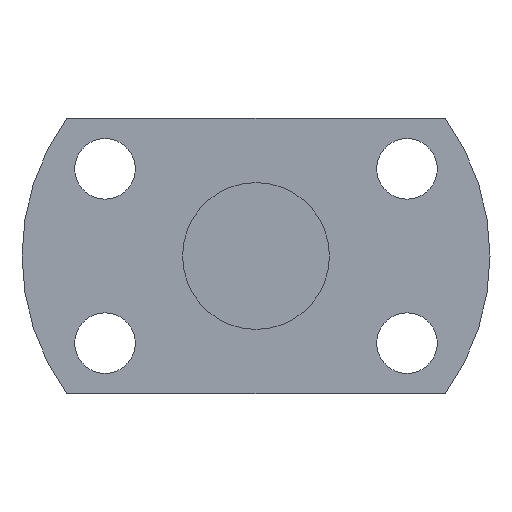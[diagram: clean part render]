
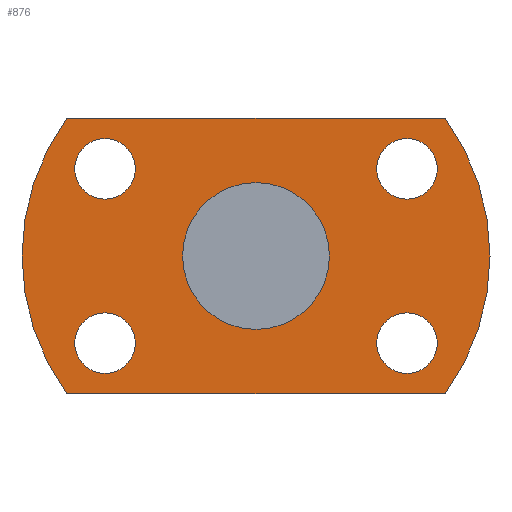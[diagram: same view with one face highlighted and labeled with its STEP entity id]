
A CAD part, left-side view. The second image highlights one B-rep face of the part: STEP entity #876.
In plain terms, the highlighted planar face has unit normal (-1, 0, 0).
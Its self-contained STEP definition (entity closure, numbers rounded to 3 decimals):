
#230=CARTESIAN_POINT('',(130.0,16.454,-6.2));
#231=VERTEX_POINT('',#230);
#232=CARTESIAN_POINT('',(130.0,16.454,-9.5));
#233=DIRECTION('',(1.0,0.0,0.0));
#234=DIRECTION('',(0.0,0.0,1.0));
#235=AXIS2_PLACEMENT_3D('',#232,#233,#234);
#236=CIRCLE('',#235,3.3);
#237=EDGE_CURVE('',#231,#231,#236,.T.);
#279=CARTESIAN_POINT('',(130.0,-16.454,12.8));
#280=VERTEX_POINT('',#279);
#281=CARTESIAN_POINT('',(130.0,-16.454,9.5));
#282=DIRECTION('',(1.0,0.0,0.0));
#283=DIRECTION('',(0.0,0.0,1.0));
#284=AXIS2_PLACEMENT_3D('',#281,#282,#283);
#285=CIRCLE('',#284,3.3);
#286=EDGE_CURVE('',#280,#280,#285,.T.);
#328=CARTESIAN_POINT('',(130.0,-16.454,-6.2));
#329=VERTEX_POINT('',#328);
#330=CARTESIAN_POINT('',(130.0,-16.454,-9.5));
#331=DIRECTION('',(1.0,0.0,0.0));
#332=DIRECTION('',(0.0,0.0,1.0));
#333=AXIS2_PLACEMENT_3D('',#330,#331,#332);
#334=CIRCLE('',#333,3.3);
#335=EDGE_CURVE('',#329,#329,#334,.T.);
#377=CARTESIAN_POINT('',(130.0,16.454,12.8));
#378=VERTEX_POINT('',#377);
#379=CARTESIAN_POINT('',(130.0,16.454,9.5));
#380=DIRECTION('',(1.0,0.0,0.0));
#381=DIRECTION('',(0.0,0.0,1.0));
#382=AXIS2_PLACEMENT_3D('',#379,#380,#381);
#383=CIRCLE('',#382,3.3);
#384=EDGE_CURVE('',#378,#378,#383,.T.);
#682=CARTESIAN_POINT('',(130.0,-20.622,-15.0));
#683=VERTEX_POINT('',#682);
#690=CARTESIAN_POINT('',(130.0,20.622,-15.0));
#691=VERTEX_POINT('',#690);
#692=CARTESIAN_POINT('',(130.0,20.622,-15.0));
#693=DIRECTION('',(0.0,-1.0,0.0));
#694=VECTOR('',#693,41.243);
#695=LINE('',#692,#694);
#696=EDGE_CURVE('',#691,#683,#695,.T.);
#713=CARTESIAN_POINT('',(130.0,-20.622,15.0));
#714=VERTEX_POINT('',#713);
#721=CARTESIAN_POINT('',(130.0,0.0,0.));
#722=DIRECTION('',(-1.0,0.0,0.0));
#723=DIRECTION('',(0.0,0.0,1.0));
#724=AXIS2_PLACEMENT_3D('',#721,#722,#723);
#725=CIRCLE('',#724,25.5);
#726=EDGE_CURVE('',#683,#714,#725,.T.);
#738=CARTESIAN_POINT('',(130.0,20.622,15.0));
#739=VERTEX_POINT('',#738);
#746=CARTESIAN_POINT('',(130.0,-20.622,15.0));
#747=DIRECTION('',(0.0,1.0,0.0));
#748=VECTOR('',#747,41.243);
#749=LINE('',#746,#748);
#750=EDGE_CURVE('',#714,#739,#749,.T.);
#763=CARTESIAN_POINT('',(130.0,0.0,0.));
#764=DIRECTION('',(-1.0,0.0,0.0));
#765=DIRECTION('',(0.0,0.0,1.0));
#766=AXIS2_PLACEMENT_3D('',#763,#764,#765);
#767=CIRCLE('',#766,25.5);
#768=EDGE_CURVE('',#739,#691,#767,.T.);
#842=CARTESIAN_POINT('',(130.0,0.0,11.));
#843=DIRECTION('',(-1.0,0.0,0.0));
#844=DIRECTION('',(0.0,0.0,1.0));
#845=AXIS2_PLACEMENT_3D('',#842,#843,#844);
#846=PLANE('',#845);
#847=ORIENTED_EDGE('',*,*,#768,.T.);
#848=ORIENTED_EDGE('',*,*,#696,.T.);
#849=ORIENTED_EDGE('',*,*,#726,.T.);
#850=ORIENTED_EDGE('',*,*,#750,.T.);
#851=EDGE_LOOP('',(#847,#848,#849,#850));
#852=FACE_OUTER_BOUND('',#851,.T.);
#853=ORIENTED_EDGE('',*,*,#237,.T.);
#854=EDGE_LOOP('',(#853));
#855=FACE_BOUND('',#854,.T.);
#856=ORIENTED_EDGE('',*,*,#286,.T.);
#857=EDGE_LOOP('',(#856));
#858=FACE_BOUND('',#857,.T.);
#859=ORIENTED_EDGE('',*,*,#335,.T.);
#860=EDGE_LOOP('',(#859));
#861=FACE_BOUND('',#860,.T.);
#862=ORIENTED_EDGE('',*,*,#384,.T.);
#863=EDGE_LOOP('',(#862));
#864=FACE_BOUND('',#863,.T.);
#865=CARTESIAN_POINT('',(130.0,0.0,8.));
#866=VERTEX_POINT('',#865);
#867=CARTESIAN_POINT('',(130.0,0.0,0.));
#868=DIRECTION('',(-1.0,0.0,0.0));
#869=DIRECTION('',(0.0,0.0,1.0));
#870=AXIS2_PLACEMENT_3D('',#867,#868,#869);
#871=CIRCLE('',#870,8.);
#872=EDGE_CURVE('',#866,#866,#871,.T.);
#873=ORIENTED_EDGE('',*,*,#872,.F.);
#874=EDGE_LOOP('',(#873));
#875=FACE_BOUND('',#874,.T.);
#876=ADVANCED_FACE('',(#852,#855,#858,#861,#864,#875),#846,.T.);
